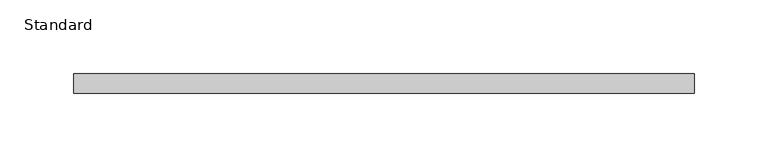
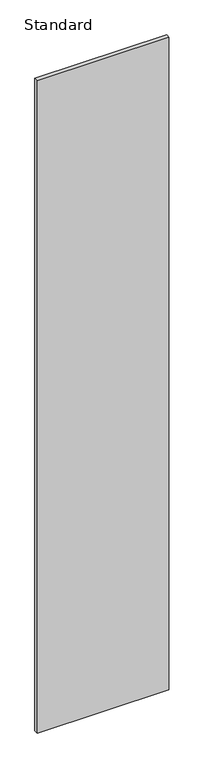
"""IFC4 building model written with IfcOpenShell, lengths in millimetres: furniture geometry, X_Partition-Compact Laminate-Duracube-Rectangular : Standard."""

from ifc_helpers import new_model, si_unit, frame, origin, place, context, project, spatial, polyline, outline, extrude, source, transform, mapped, element, save


def standard_11625aa9(model_context):
    return source(origin(), model_context, "Body", "SweptSolid", [
        extrude(outline(polyline([(254.4503264, 0.0), (254.4503264, -13.0), (-165.0496736, -13.0), (-165.0496736, 0.0), (254.4503264, 0.0)])), frame((0.0, 0.0, 200.0), z_axis=(0.0, 0.0, 1.0), x_axis=(1.0, 0.0, 0.0)), (0.0, 0.0, 1.0), 2198.0),
    ])


if __name__ == "__main__":
    model = new_model("IFC4")
    model_context = context("Model", 3, world=origin())
    ifc_project = project(units=[si_unit("LENGTHUNIT", "METRE", prefix="MILLI")], contexts=[model_context])
    site = spatial("IfcSite", under=ifc_project)
    building = spatial("IfcBuilding", under=site)
    placement = place(None, origin())
    standard_shape = standard_11625aa9(model_context)
    element("IfcFurniture", 1, ObjectType="X_Partition-Compact Laminate-Duracube-Rectangular : Standard", at=placement, inside=building, context=model_context, shape_type="MappedRepresentation", body=[
        mapped(standard_shape, transform((0.0, 0.0, 0.0), x_axis=(1.0, 0.0, 0.0), y_axis=(0.0, 1.0, 0.0), z_axis=(0.0, 0.0, 1.0))),
    ])
    save(model, "model.ifc")
